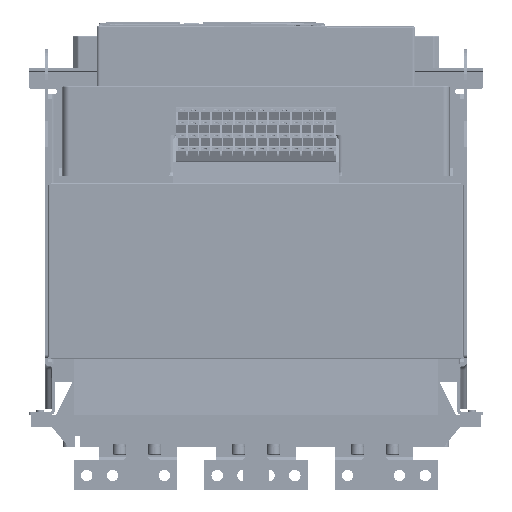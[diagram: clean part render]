
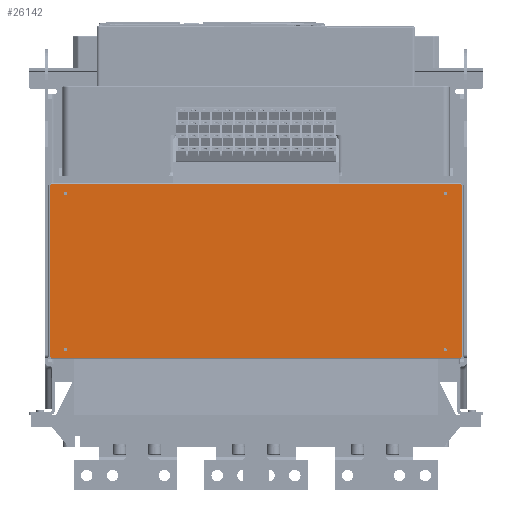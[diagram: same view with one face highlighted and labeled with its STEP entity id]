
A CAD part, front view. The second image highlights one B-rep face of the part: STEP entity #26142.
In plain terms, the highlighted planar face has unit normal (0, -1, 0) as drawn and (0, 0, -1) by its records, which use the part's own axes.
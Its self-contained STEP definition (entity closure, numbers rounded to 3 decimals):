
#23451=CARTESIAN_POINT('',(-184.,76.,0.));
#23452=DIRECTION('',(0.,0.,-1.));
#23453=DIRECTION('',(-1.,0.,0.));
#23454=AXIS2_PLACEMENT_3D('',#23451,#23452,#23453);
#23459=CARTESIAN_POINT('',(-184.,76.,0.));
#23460=DIRECTION('',(0.,0.,-1.));
#23461=DIRECTION('',(1.,0.,0.));
#23462=AXIS2_PLACEMENT_3D('',#23459,#23460,#23461);
#23467=CARTESIAN_POINT('',(183.,76.,0.));
#23468=DIRECTION('',(0.,0.,-1.));
#23469=DIRECTION('',(-1.,0.,0.));
#23470=AXIS2_PLACEMENT_3D('',#23467,#23468,#23469);
#23475=CARTESIAN_POINT('',(183.,76.,0.));
#23476=DIRECTION('',(0.,0.,-1.));
#23477=DIRECTION('',(1.,0.,0.));
#23478=AXIS2_PLACEMENT_3D('',#23475,#23476,#23477);
#23483=CARTESIAN_POINT('',(-184.,-75.,0.));
#23484=DIRECTION('',(0.,0.,-1.));
#23485=DIRECTION('',(-1.,0.,0.));
#23486=AXIS2_PLACEMENT_3D('',#23483,#23484,#23485);
#23491=CARTESIAN_POINT('',(-184.,-75.,0.));
#23492=DIRECTION('',(0.,0.,-1.));
#23493=DIRECTION('',(1.,0.,0.));
#23494=AXIS2_PLACEMENT_3D('',#23491,#23492,#23493);
#23499=CARTESIAN_POINT('',(183.,-75.,0.));
#23500=DIRECTION('',(0.,0.,-1.));
#23501=DIRECTION('',(-1.,0.,0.));
#23502=AXIS2_PLACEMENT_3D('',#23499,#23500,#23501);
#23507=CARTESIAN_POINT('',(183.,-75.,0.));
#23508=DIRECTION('',(0.,0.,-1.));
#23509=DIRECTION('',(1.,0.,0.));
#23510=AXIS2_PLACEMENT_3D('',#23507,#23508,#23509);
#23515=DIRECTION('',(0.,-1.,0.));
#23516=VECTOR('',#23515,166.);
#23517=CARTESIAN_POINT('',(199.5,83.,0.));
#23518=LINE('',#23517,#23516);
#23522=DIRECTION('',(-1.,0.,0.));
#23523=VECTOR('',#23522,1.);
#23524=CARTESIAN_POINT('',(199.5,83.,0.));
#23525=LINE('',#23524,#23523);
#23529=DIRECTION('',(0.,-1.,0.));
#23530=VECTOR('',#23529,1.);
#23531=CARTESIAN_POINT('',(198.5,84.,0.));
#23532=LINE('',#23531,#23530);
#23536=DIRECTION('',(1.,0.,0.));
#23537=VECTOR('',#23536,397.);
#23538=CARTESIAN_POINT('',(-198.5,84.,0.));
#23539=LINE('',#23538,#23537);
#23543=DIRECTION('',(0.,-1.,0.));
#23544=VECTOR('',#23543,1.);
#23545=CARTESIAN_POINT('',(-198.5,84.,0.));
#23546=LINE('',#23545,#23544);
#23550=DIRECTION('',(1.,0.,0.));
#23551=VECTOR('',#23550,1.);
#23552=CARTESIAN_POINT('',(-199.5,83.,0.));
#23553=LINE('',#23552,#23551);
#23557=DIRECTION('',(0.,1.,0.));
#23558=VECTOR('',#23557,166.);
#23559=CARTESIAN_POINT('',(-199.5,-83.,0.));
#23560=LINE('',#23559,#23558);
#23564=DIRECTION('',(1.,0.,0.));
#23565=VECTOR('',#23564,1.);
#23566=CARTESIAN_POINT('',(-199.5,-83.,0.));
#23567=LINE('',#23566,#23565);
#23571=DIRECTION('',(0.,1.,0.));
#23572=VECTOR('',#23571,1.);
#23573=CARTESIAN_POINT('',(-198.5,-84.,0.));
#23574=LINE('',#23573,#23572);
#23578=DIRECTION('',(-1.,0.,0.));
#23579=VECTOR('',#23578,397.);
#23580=CARTESIAN_POINT('',(198.5,-84.,0.));
#23581=LINE('',#23580,#23579);
#23585=DIRECTION('',(0.,1.,0.));
#23586=VECTOR('',#23585,1.);
#23587=CARTESIAN_POINT('',(198.5,-84.,0.));
#23588=LINE('',#23587,#23586);
#23592=DIRECTION('',(-1.,0.,0.));
#23593=VECTOR('',#23592,1.);
#23594=CARTESIAN_POINT('',(199.5,-83.,0.));
#23595=LINE('',#23594,#23593);
#25727=CARTESIAN_POINT('',(-185.6,76.,0.));
#25728=CARTESIAN_POINT('',(-182.4,76.,0.));
#25729=VERTEX_POINT('',#25727);
#25730=VERTEX_POINT('',#25728);
#25731=CARTESIAN_POINT('',(181.4,76.,0.));
#25732=CARTESIAN_POINT('',(184.6,76.,0.));
#25733=VERTEX_POINT('',#25731);
#25734=VERTEX_POINT('',#25732);
#25735=CARTESIAN_POINT('',(-185.6,-75.,0.));
#25736=CARTESIAN_POINT('',(-182.4,-75.,0.));
#25737=VERTEX_POINT('',#25735);
#25738=VERTEX_POINT('',#25736);
#25739=CARTESIAN_POINT('',(181.4,-75.,0.));
#25740=CARTESIAN_POINT('',(184.6,-75.,0.));
#25741=VERTEX_POINT('',#25739);
#25742=VERTEX_POINT('',#25740);
#26023=CARTESIAN_POINT('',(198.5,83.,0.));
#26024=VERTEX_POINT('',#26023);
#26025=CARTESIAN_POINT('',(-198.5,83.,0.));
#26026=VERTEX_POINT('',#26025);
#26027=CARTESIAN_POINT('',(-198.5,-83.,0.));
#26028=VERTEX_POINT('',#26027);
#26029=CARTESIAN_POINT('',(198.5,-83.,0.));
#26030=VERTEX_POINT('',#26029);
#26031=CARTESIAN_POINT('',(199.5,-83.,0.));
#26033=VERTEX_POINT('',#26031);
#26037=CARTESIAN_POINT('',(199.5,83.,0.));
#26038=VERTEX_POINT('',#26037);
#26039=CARTESIAN_POINT('',(-198.5,-84.,0.));
#26041=VERTEX_POINT('',#26039);
#26045=CARTESIAN_POINT('',(198.5,-84.,0.));
#26046=VERTEX_POINT('',#26045);
#26047=CARTESIAN_POINT('',(-199.5,83.,0.));
#26049=VERTEX_POINT('',#26047);
#26053=CARTESIAN_POINT('',(-199.5,-83.,0.));
#26054=VERTEX_POINT('',#26053);
#26055=CARTESIAN_POINT('',(198.5,84.,0.));
#26057=VERTEX_POINT('',#26055);
#26061=CARTESIAN_POINT('',(-198.5,84.,0.));
#26062=VERTEX_POINT('',#26061);
#26087=CARTESIAN_POINT('',(0.,0.,0.));
#26088=DIRECTION('',(0.,0.,1.));
#26089=DIRECTION('',(1.,0.,0.));
#26090=AXIS2_PLACEMENT_3D('',#26087,#26088,#26089);
#26091=PLANE('',#26090);
#26093=ORIENTED_EDGE('',*,*,#26092,.F.);
#26095=ORIENTED_EDGE('',*,*,#26094,.T.);
#26097=ORIENTED_EDGE('',*,*,#26096,.F.);
#26099=ORIENTED_EDGE('',*,*,#26098,.F.);
#26101=ORIENTED_EDGE('',*,*,#26100,.T.);
#26103=ORIENTED_EDGE('',*,*,#26102,.F.);
#26105=ORIENTED_EDGE('',*,*,#26104,.F.);
#26107=ORIENTED_EDGE('',*,*,#26106,.T.);
#26109=ORIENTED_EDGE('',*,*,#26108,.F.);
#26111=ORIENTED_EDGE('',*,*,#26110,.F.);
#26113=ORIENTED_EDGE('',*,*,#26112,.T.);
#26115=ORIENTED_EDGE('',*,*,#26114,.F.);
#26116=EDGE_LOOP('',(#26093,#26095,#26097,#26099,#26101,#26103,#26105,#26107,
#26109,#26111,#26113,#26115));
#26117=FACE_OUTER_BOUND('',#26116,.F.);
#26119=ORIENTED_EDGE('',*,*,#26118,.T.);
#26121=ORIENTED_EDGE('',*,*,#26120,.T.);
#26122=EDGE_LOOP('',(#26119,#26121));
#26123=FACE_BOUND('',#26122,.F.);
#26125=ORIENTED_EDGE('',*,*,#26124,.T.);
#26127=ORIENTED_EDGE('',*,*,#26126,.T.);
#26128=EDGE_LOOP('',(#26125,#26127));
#26129=FACE_BOUND('',#26128,.F.);
#26131=ORIENTED_EDGE('',*,*,#26130,.T.);
#26133=ORIENTED_EDGE('',*,*,#26132,.T.);
#26134=EDGE_LOOP('',(#26131,#26133));
#26135=FACE_BOUND('',#26134,.F.);
#26137=ORIENTED_EDGE('',*,*,#26136,.T.);
#26139=ORIENTED_EDGE('',*,*,#26138,.T.);
#26140=EDGE_LOOP('',(#26137,#26139));
#26141=FACE_BOUND('',#26140,.F.);
#26142=ADVANCED_FACE('',(#26117,#26123,#26129,#26135,#26141),#26091,.F.);
#23455=CIRCLE('',#23454,1.6);
#23463=CIRCLE('',#23462,1.6);
#23471=CIRCLE('',#23470,1.6);
#23479=CIRCLE('',#23478,1.6);
#23487=CIRCLE('',#23486,1.6);
#23495=CIRCLE('',#23494,1.6);
#23503=CIRCLE('',#23502,1.6);
#23511=CIRCLE('',#23510,1.6);
#26092=EDGE_CURVE('',#26038,#26033,#23518,.T.);
#26094=EDGE_CURVE('',#26038,#26024,#23525,.T.);
#26096=EDGE_CURVE('',#26057,#26024,#23532,.T.);
#26098=EDGE_CURVE('',#26062,#26057,#23539,.T.);
#26100=EDGE_CURVE('',#26062,#26026,#23546,.T.);
#26102=EDGE_CURVE('',#26049,#26026,#23553,.T.);
#26104=EDGE_CURVE('',#26054,#26049,#23560,.T.);
#26106=EDGE_CURVE('',#26054,#26028,#23567,.T.);
#26108=EDGE_CURVE('',#26041,#26028,#23574,.T.);
#26110=EDGE_CURVE('',#26046,#26041,#23581,.T.);
#26112=EDGE_CURVE('',#26046,#26030,#23588,.T.);
#26114=EDGE_CURVE('',#26033,#26030,#23595,.T.);
#26118=EDGE_CURVE('',#25733,#25734,#23471,.T.);
#26120=EDGE_CURVE('',#25734,#25733,#23479,.T.);
#26124=EDGE_CURVE('',#25737,#25738,#23487,.T.);
#26126=EDGE_CURVE('',#25738,#25737,#23495,.T.);
#26130=EDGE_CURVE('',#25741,#25742,#23503,.T.);
#26132=EDGE_CURVE('',#25742,#25741,#23511,.T.);
#26136=EDGE_CURVE('',#25729,#25730,#23455,.T.);
#26138=EDGE_CURVE('',#25730,#25729,#23463,.T.);
